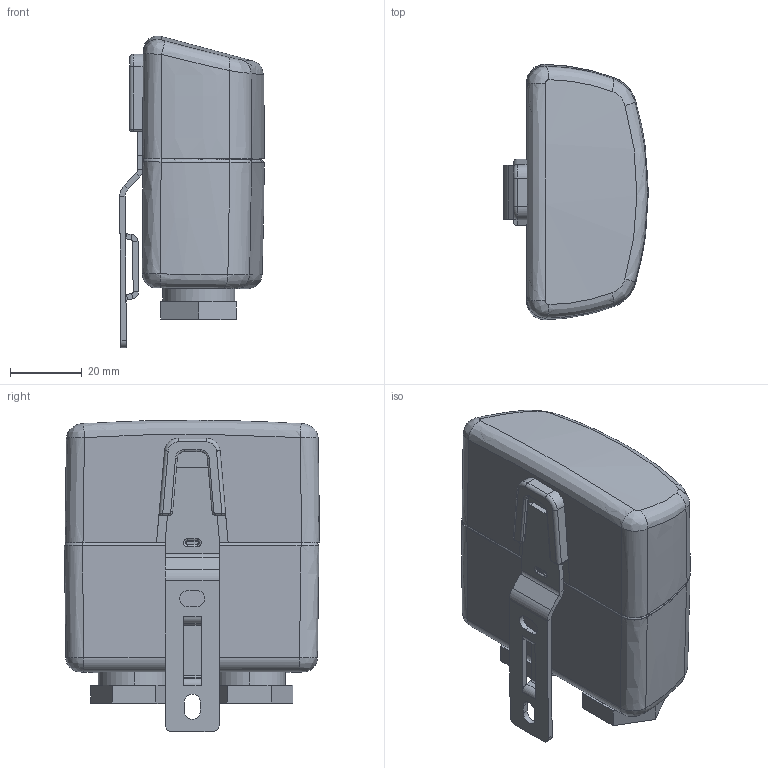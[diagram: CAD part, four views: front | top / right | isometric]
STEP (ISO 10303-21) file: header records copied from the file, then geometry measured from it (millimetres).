
FILE_DESCRIPTION(('CATIA V5 STEP Exchange'),'2;1');
FILE_NAME('C:\Users\itrimer\Desktop\TLS.stp','2019-12-09T07:25:57+00:00',('none'),('none'),'CATIA Version 5 Release 20 SP 6 (IN-10)','CATIA V5 STEP AP214','none');
FILE_SCHEMA(('AUTOMOTIVE_DESIGN { 1 0 10303 214 1 1 1 1 }'));
Products named in the file (10): 2CSP200006A1001_000_A0_SONDA LSD PER T1 FD COMPLETA.CATProduct_2PD; 2CSP200004A1001_000_A0_ASSIEME CALOTTA LSD FD.CATProduct_2PD; 04238226-8230_000_A0_PORTA_MORSETTI_TW-SONDA_2PA; 04235841-5845_000_D0_CALOTTA_TRASLUCIDA_TW-SONDA_2PA; 2CSP200005A1001_000_A0_ASSIEME BASE T1 POLE E LSD FD_2PD; 04235826-----_000_C0_BASE TWP_2EG00584_2EA; 04235836-----_000_C1_VITE DI FISSAGGIO_2EG00632_2EA; 04235856-----_000_B0_PRESSACAVO_2EG00491_2EA; 04235857-----_000_B0_GUARNIZIONE AD ANELLO_2EG00491_2EA; 04024278-----_000_C0_BARRA DI ANCORAGGIO PALO_2EG00601_2EA
Assembly tree (10 placements, depth 3):
  2CSP200006A1001_000_A0_SONDA LSD PER T1 FD COMPLETA.CATProduct_2PD
    2CSP200004A1001_000_A0_ASSIEME CALOTTA LSD FD.CATProduct_2PD
      04238226-8230_000_A0_PORTA_MORSETTI_TW-SONDA_2PA
      04235841-5845_000_D0_CALOTTA_TRASLUCIDA_TW-SONDA_2PA
    2CSP200005A1001_000_A0_ASSIEME BASE T1 POLE E LSD FD_2PD
      04235826-----_000_C0_BASE TWP_2EG00584_2EA
      04235836-----_000_C1_VITE DI FISSAGGIO_2EG00632_2EA
      04235856-----_000_B0_PRESSACAVO_2EG00491_2EA  x2
      04235857-----_000_B0_GUARNIZIONE AD ANELLO_2EG00491_2EA
    04024278-----_000_C0_BARRA DI ANCORAGGIO PALO_2EG00601_2EA
Bounding box: 40.21 x 70.95 x 86.59 mm (x, y, z)
Volume: 58905.4 mm3; surface area: 59608.5 mm2
Topology: 18 solids, 18 shells, 1197 faces, 2889 edges, 1711 vertices
Faces by surface type: cylinder 423, plane 350, bspline 225, torus 107, cone 49, sphere 40, extrusion 3
Entity records: 45853 total; most frequent: CARTESIAN_POINT 22076, ORIENTED_EDGE 5490, DIRECTION 3559, EDGE_CURVE 2745, VERTEX_POINT 1636, AXIS2_PLACEMENT_3D 1633, EDGE_LOOP 1211, ADVANCED_FACE 1149
